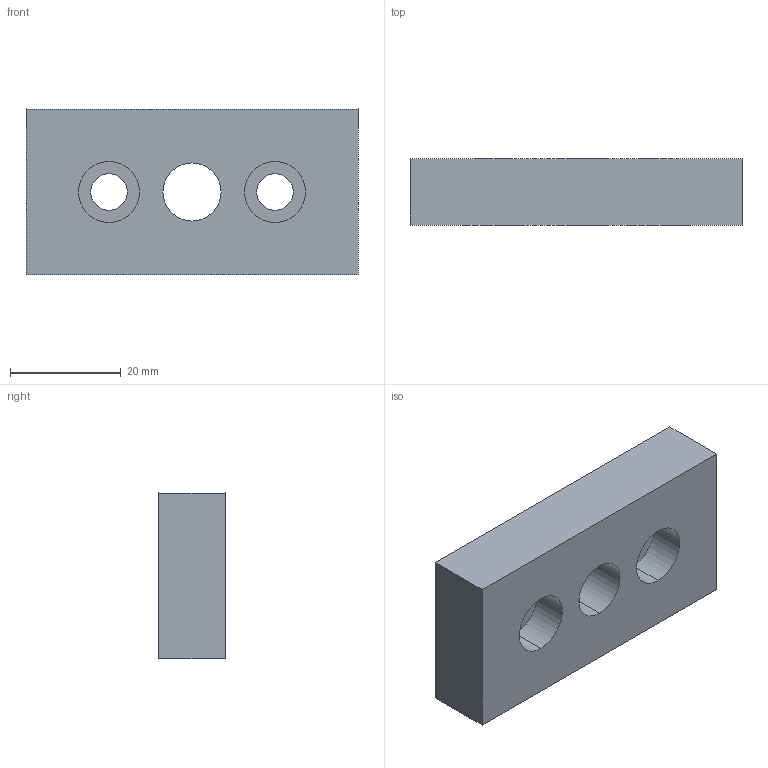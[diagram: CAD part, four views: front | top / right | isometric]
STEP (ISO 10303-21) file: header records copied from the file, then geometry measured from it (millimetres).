
FILE_DESCRIPTION (( 'STEP AP214' ), '1' );
FILE_NAME ('J3B6.step', '2017-05-24T07:38:05', ( 'admin' ), ( '' ), 'SwSTEP 2.0', 'SolidWorks 2014', '' );
FILE_SCHEMA (( 'AUTOMOTIVE_DESIGN' ));
Length unit declared in the file: millimetre
Products named in the file (1): J3B6
Bounding box: 60 x 12 x 30 mm (x, y, z)
Volume: 18949.2 mm3; surface area: 6523.1 mm2
Topology: 1 solids, 1 shells, 18 faces, 42 edges, 28 vertices
Faces by surface type: cylinder 10, plane 8
Entity records: 594 total; most frequent: DIRECTION 100, CARTESIAN_POINT 89, ORIENTED_EDGE 84, EDGE_CURVE 42, AXIS2_PLACEMENT_3D 39, VERTEX_POINT 28, EDGE_LOOP 26, LINE 22
